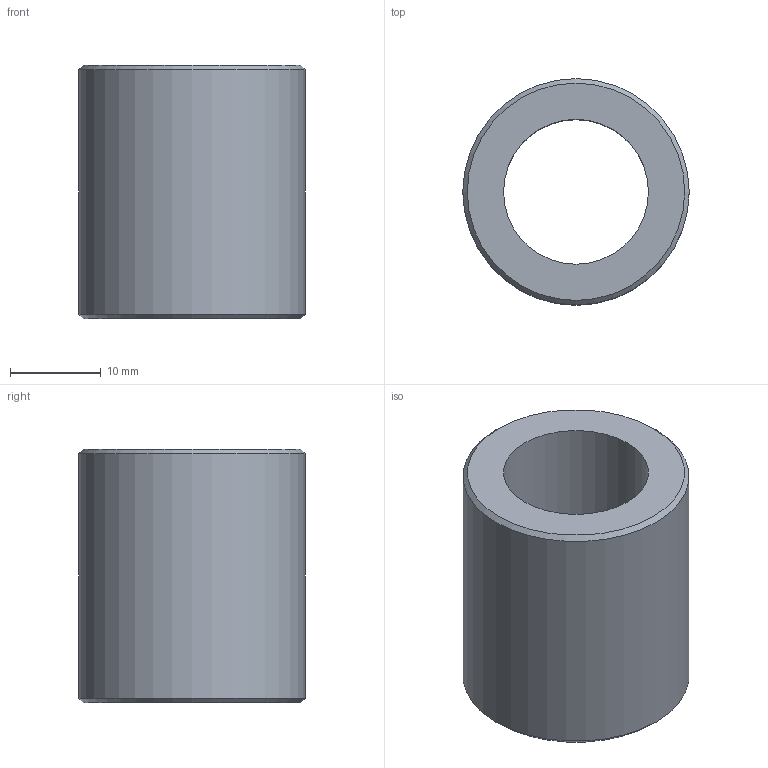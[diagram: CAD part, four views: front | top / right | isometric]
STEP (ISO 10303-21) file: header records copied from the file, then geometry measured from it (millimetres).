
FILE_DESCRIPTION(('STEP AP203'),'1');
FILE_NAME('//192.168.1.1/share/s-4 技術開発/s-4-4_CAD/s-4-4-3_見直し済み/007 修正済み/DB/DB_TOP/DB-16.step','2022-02-08T07:28:59',(' '),(' '),'Spatial InterOp 3D',' ',' ');
FILE_SCHEMA(('CONFIG_CONTROL_DESIGN'));
Length unit declared in the file: millimetre
Products named in the file (1): 1
Bounding box: 25 x 25 x 28 mm (x, y, z)
Volume: 8095.4 mm3; surface area: 4139.5 mm2
Topology: 1 solids, 1 shells, 6 faces, 10 edges, 6 vertices
Faces by surface type: plane 2, cylinder 2, cone 2
Full cylindrical faces by diameter (mm): 16 x1, 25 x1
Entity records: 172 total; most frequent: DIRECTION 26, CARTESIAN_POINT 19, AXIS2_PLACEMENT_3D 13, EDGE_LOOP 12, ORIENTED_EDGE 12, FACE_OUTER_BOUND 8, ADVANCED_FACE 6, EDGE_CURVE 6
